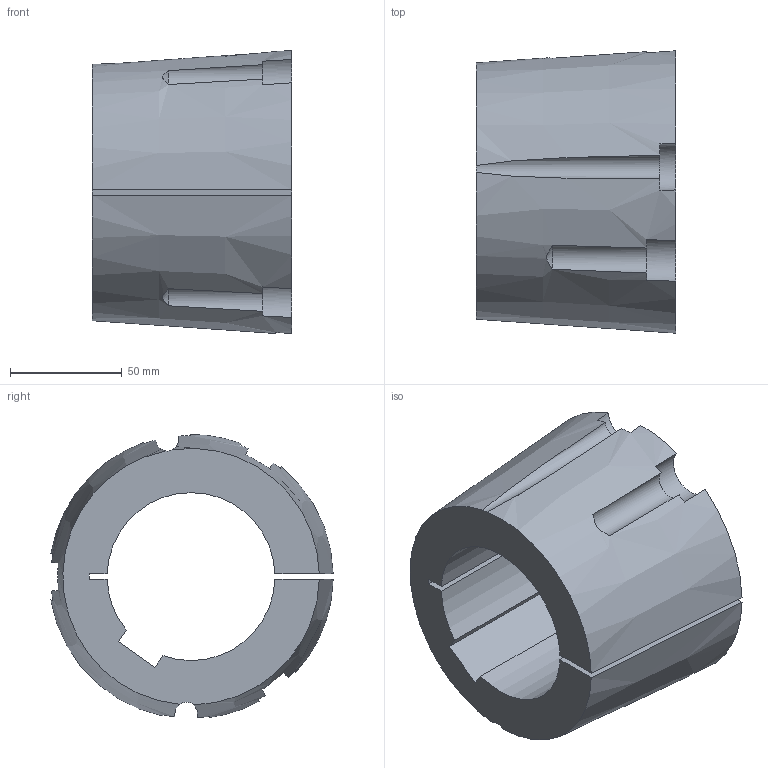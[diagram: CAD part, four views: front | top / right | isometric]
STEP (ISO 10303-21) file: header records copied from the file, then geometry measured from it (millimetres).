
FILE_DESCRIPTION( ( 'STEP AP203' ), '1' );
FILE_NAME( 'D:/export/antriebselemente/spannbuchsen_und_spannsaetze/taper-spannbuchsen_1008_bis_5050/taper-spannbuchsen_62251075Isometric_216.stp', '2018-12-11T11:11:28', ( '' ), ( '' ), ' ', 'PARTsolutions', ' ' );
FILE_SCHEMA( ( 'CONFIG_CONTROL_DESIGN' ) );
Length unit declared in the file: millimetre
Products named in the file (1): _taper-spannbuchsen_62251075
Bounding box: 89 x 126.13 x 126.46 mm (x, y, z)
Volume: 587978.2 mm3; surface area: 76449.3 mm2
Topology: 1 solids, 1 shells, 34 faces, 96 edges, 64 vertices
Faces by surface type: plane 15, cylinder 13, cone 6
Entity records: 1315 total; most frequent: CARTESIAN_POINT 391, ORIENTED_EDGE 192, DIRECTION 186, EDGE_CURVE 96, AXIS2_PLACEMENT_3D 80, VERTEX_POINT 64, CIRCLE 45, ADVANCED_FACE 34
